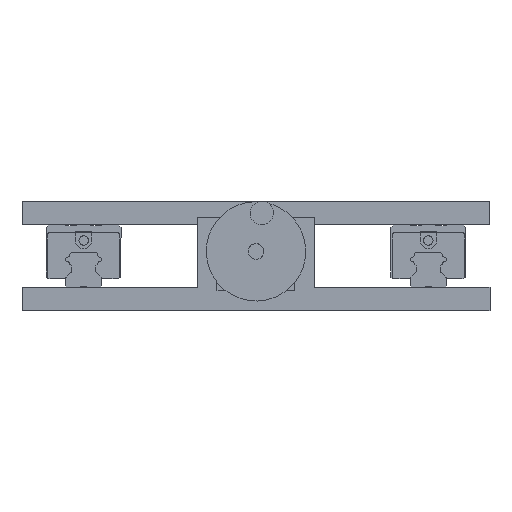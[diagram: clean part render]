
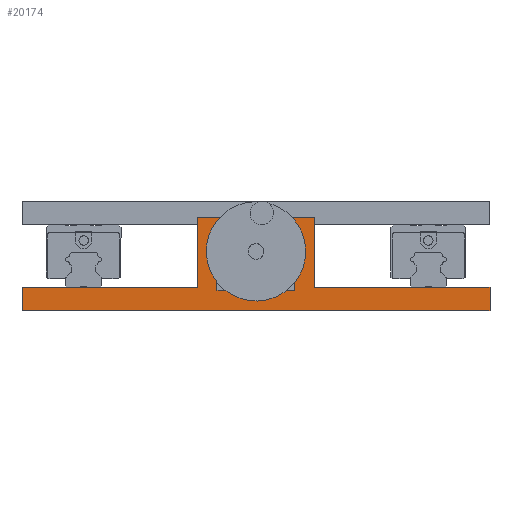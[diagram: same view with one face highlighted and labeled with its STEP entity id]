
A CAD part, front view. The second image highlights one B-rep face of the part: STEP entity #20174.
In plain terms, the highlighted planar face has unit normal (0, -1, 0).
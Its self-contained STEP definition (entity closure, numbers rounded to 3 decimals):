
#1337 = LINE ( 'NONE', #29037, #41300 ) ;
#2178 = ORIENTED_EDGE ( 'NONE', *, *, #64294, .F. ) ;
#3656 = VERTEX_POINT ( 'NONE', #50030 ) ;
#3817 = DIRECTION ( 'NONE',  ( 0., 1., 0. ) ) ;
#4066 = EDGE_CURVE ( 'NONE', #17998, #34249, #1337, .T. ) ;
#4463 = ORIENTED_EDGE ( 'NONE', *, *, #60578, .T. ) ;
#4662 = AXIS2_PLACEMENT_3D ( 'NONE', #36592, #3817, #69539 ) ;
#4857 = VERTEX_POINT ( 'NONE', #68295 ) ;
#5456 = VERTEX_POINT ( 'NONE', #68904 ) ;
#6756 = EDGE_CURVE ( 'NONE', #36259, #47615, #11996, .T. ) ;
#7459 = VECTOR ( 'NONE', #40069, 1000. ) ;
#7998 = ORIENTED_EDGE ( 'NONE', *, *, #13296, .F. ) ;
#9545 = LINE ( 'NONE', #66876, #36696 ) ;
#10341 = EDGE_LOOP ( 'NONE', ( #69194, #16549 ) ) ;
#11460 = DIRECTION ( 'NONE',  ( 0., 0., 1. ) ) ;
#11996 = CIRCLE ( 'NONE', #26235, 5. ) ;
#13171 = CARTESIAN_POINT ( 'NONE',  ( -150., -316.5, 15. ) ) ;
#13296 = EDGE_CURVE ( 'NONE', #46086, #63854, #24213, .T. ) ;
#13627 = EDGE_LOOP ( 'NONE', ( #62590, #69690, #26391, #2178, #59163, #48152, #7998, #4463 ) ) ;
#16508 = DIRECTION ( 'NONE',  ( 0., 0., 1. ) ) ;
#16549 = ORIENTED_EDGE ( 'NONE', *, *, #6756, .F. ) ;
#17217 = CARTESIAN_POINT ( 'NONE',  ( -37.5, -316.5, 60. ) ) ;
#17998 = VERTEX_POINT ( 'NONE', #36535 ) ;
#20174 = ADVANCED_FACE ( 'NONE', ( #51973, #21389 ), #42082, .F. ) ;
#20365 = DIRECTION ( 'NONE',  ( 1., 0., 0. ) ) ;
#21389 = FACE_OUTER_BOUND ( 'NONE', #13627, .T. ) ;
#24001 = DIRECTION ( 'NONE',  ( 1., 0., 0. ) ) ;
#24213 = LINE ( 'NONE', #58342, #35244 ) ;
#24805 = LINE ( 'NONE', #32498, #64664 ) ;
#25034 = CARTESIAN_POINT ( 'NONE',  ( 0., -316.5, 43. ) ) ;
#25844 = CARTESIAN_POINT ( 'NONE',  ( 150., -316.5, 0. ) ) ;
#26235 = AXIS2_PLACEMENT_3D ( 'NONE', #54449, #66111, #16508 ) ;
#26391 = ORIENTED_EDGE ( 'NONE', *, *, #58653, .F. ) ;
#26603 = VERTEX_POINT ( 'NONE', #66096 ) ;
#26619 = DIRECTION ( 'NONE',  ( 0., 0., -1. ) ) ;
#27382 = CARTESIAN_POINT ( 'NONE',  ( -37.5, -316.5, 15. ) ) ;
#27853 = CARTESIAN_POINT ( 'NONE',  ( 0., -316.5, 38. ) ) ;
#29037 = CARTESIAN_POINT ( 'NONE',  ( -150., -316.5, 0. ) ) ;
#29800 = CARTESIAN_POINT ( 'NONE',  ( -150., -316.5, 15. ) ) ;
#30682 = DIRECTION ( 'NONE',  ( 1., 0., 0. ) ) ;
#31323 = CARTESIAN_POINT ( 'NONE',  ( -150., -316.5, 15. ) ) ;
#32498 = CARTESIAN_POINT ( 'NONE',  ( 37.5, -316.5, 60. ) ) ;
#34249 = VERTEX_POINT ( 'NONE', #25844 ) ;
#34616 = CARTESIAN_POINT ( 'NONE',  ( 150., -316.5, 15. ) ) ;
#34656 = EDGE_CURVE ( 'NONE', #3656, #26603, #47769, .T. ) ;
#35244 = VECTOR ( 'NONE', #30682, 1000. ) ;
#36259 = VERTEX_POINT ( 'NONE', #64153 ) ;
#36535 = CARTESIAN_POINT ( 'NONE',  ( -150., -316.5, 0. ) ) ;
#36592 = CARTESIAN_POINT ( 'NONE',  ( -150., -316.5, 15. ) ) ;
#36696 = VECTOR ( 'NONE', #56136, 1000. ) ;
#37193 = EDGE_CURVE ( 'NONE', #3656, #63854, #9545, .T. ) ;
#40069 = DIRECTION ( 'NONE',  ( 0., 0., -1. ) ) ;
#40945 = VECTOR ( 'NONE', #45218, 1000. ) ;
#41300 = VECTOR ( 'NONE', #24001, 1000. ) ;
#41410 = VECTOR ( 'NONE', #20365, 1000. ) ;
#42082 = PLANE ( 'NONE',  #4662 ) ;
#45218 = DIRECTION ( 'NONE',  ( 0., 0., -1. ) ) ;
#46051 = LINE ( 'NONE', #13171, #40945 ) ;
#46086 = VERTEX_POINT ( 'NONE', #29800 ) ;
#47615 = VERTEX_POINT ( 'NONE', #25034 ) ;
#47769 = LINE ( 'NONE', #17217, #54477 ) ;
#48152 = ORIENTED_EDGE ( 'NONE', *, *, #37193, .T. ) ;
#48727 = EDGE_CURVE ( 'NONE', #47615, #36259, #65723, .T. ) ;
#50030 = CARTESIAN_POINT ( 'NONE',  ( -37.5, -316.5, 60. ) ) ;
#51973 = FACE_BOUND ( 'NONE', #10341, .T. ) ;
#54360 = DIRECTION ( 'NONE',  ( 0., -1., 0. ) ) ;
#54449 = CARTESIAN_POINT ( 'NONE',  ( 0., -316.5, 38. ) ) ;
#54477 = VECTOR ( 'NONE', #56802, 1000. ) ;
#55949 = AXIS2_PLACEMENT_3D ( 'NONE', #27853, #54360, #11460 ) ;
#56136 = DIRECTION ( 'NONE',  ( 0., 0., -1. ) ) ;
#56802 = DIRECTION ( 'NONE',  ( 1., 0., 0. ) ) ;
#58342 = CARTESIAN_POINT ( 'NONE',  ( -150., -316.5, 15. ) ) ;
#58547 = EDGE_CURVE ( 'NONE', #5456, #34249, #69413, .T. ) ;
#58653 = EDGE_CURVE ( 'NONE', #4857, #5456, #70195, .T. ) ;
#59163 = ORIENTED_EDGE ( 'NONE', *, *, #34656, .F. ) ;
#60578 = EDGE_CURVE ( 'NONE', #46086, #17998, #46051, .T. ) ;
#62590 = ORIENTED_EDGE ( 'NONE', *, *, #4066, .T. ) ;
#63854 = VERTEX_POINT ( 'NONE', #27382 ) ;
#64153 = CARTESIAN_POINT ( 'NONE',  ( 0., -316.5, 33. ) ) ;
#64294 = EDGE_CURVE ( 'NONE', #26603, #4857, #24805, .T. ) ;
#64664 = VECTOR ( 'NONE', #26619, 1000. ) ;
#65723 = CIRCLE ( 'NONE', #55949, 5. ) ;
#66096 = CARTESIAN_POINT ( 'NONE',  ( 37.5, -316.5, 60. ) ) ;
#66111 = DIRECTION ( 'NONE',  ( 0., -1., 0. ) ) ;
#66876 = CARTESIAN_POINT ( 'NONE',  ( -37.5, -316.5, 60. ) ) ;
#68295 = CARTESIAN_POINT ( 'NONE',  ( 37.5, -316.5, 15. ) ) ;
#68904 = CARTESIAN_POINT ( 'NONE',  ( 150., -316.5, 15. ) ) ;
#69194 = ORIENTED_EDGE ( 'NONE', *, *, #48727, .F. ) ;
#69413 = LINE ( 'NONE', #34616, #7459 ) ;
#69539 = DIRECTION ( 'NONE',  ( 0., 0., 1. ) ) ;
#69690 = ORIENTED_EDGE ( 'NONE', *, *, #58547, .F. ) ;
#70195 = LINE ( 'NONE', #31323, #41410 ) ;
